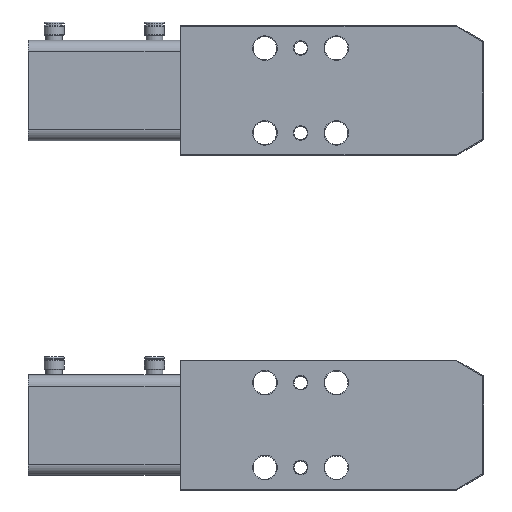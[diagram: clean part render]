
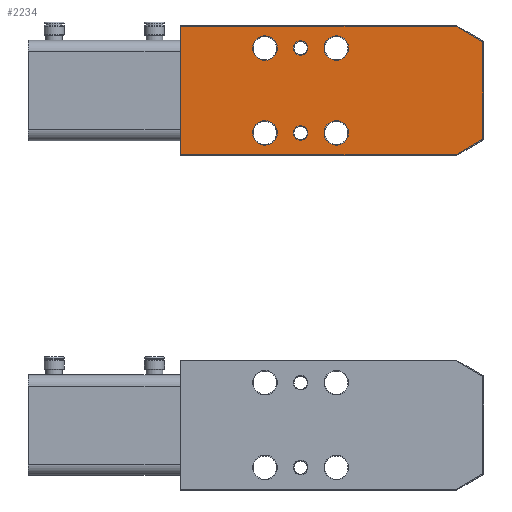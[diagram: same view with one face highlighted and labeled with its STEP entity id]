
A CAD part, top view. The second image highlights one B-rep face of the part: STEP entity #2234.
In plain terms, the highlighted planar face has unit normal (0, 0, 1).
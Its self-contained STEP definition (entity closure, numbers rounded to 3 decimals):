
#2234=ADVANCED_FACE('',(#4733,#4734,#4735,#4736,#4737,#4738,#4739),#4740,.T.);
#4733=FACE_OUTER_BOUND('',#7733,.T.);
#4734=FACE_BOUND('',#7734,.T.);
#4735=FACE_BOUND('',#7735,.T.);
#4736=FACE_BOUND('',#7736,.T.);
#4737=FACE_BOUND('',#7737,.T.);
#4738=FACE_BOUND('',#7738,.T.);
#4739=FACE_BOUND('',#7739,.T.);
#4740=PLANE('',#7740);
#7733=EDGE_LOOP('',(#14378,#14379,#14380,#14381,#14382,#14383));
#7734=EDGE_LOOP('',(#14384));
#7735=EDGE_LOOP('',(#14385));
#7736=EDGE_LOOP('',(#14386));
#7737=EDGE_LOOP('',(#14387));
#7738=EDGE_LOOP('',(#14388));
#7739=EDGE_LOOP('',(#14389));
#7740=AXIS2_PLACEMENT_3D('',#14390,#14391,#14392);
#14378=ORIENTED_EDGE('',*,*,#17893,.T.);
#14379=ORIENTED_EDGE('',*,*,#17913,.T.);
#14380=ORIENTED_EDGE('',*,*,#18425,.T.);
#14381=ORIENTED_EDGE('',*,*,#18426,.T.);
#14382=ORIENTED_EDGE('',*,*,#18427,.T.);
#14383=ORIENTED_EDGE('',*,*,#18428,.T.);
#14384=ORIENTED_EDGE('',*,*,#18423,.T.);
#14385=ORIENTED_EDGE('',*,*,#17796,.T.);
#14386=ORIENTED_EDGE('',*,*,#18429,.T.);
#14387=ORIENTED_EDGE('',*,*,#17739,.T.);
#14388=ORIENTED_EDGE('',*,*,#18412,.T.);
#14389=ORIENTED_EDGE('',*,*,#18430,.T.);
#14390=CARTESIAN_POINT('',(1522.0,139.0,61.));
#14391=DIRECTION('',(0.,0.,1.0));
#14392=DIRECTION('',(0.0,-1.0,0.));
#17739=EDGE_CURVE('',#21483,#21483,#21484,.T.);
#17796=EDGE_CURVE('',#21580,#21580,#21581,.T.);
#17893=EDGE_CURVE('',#21737,#21735,#21738,.T.);
#17913=EDGE_CURVE('',#21735,#21765,#21767,.T.);
#18412=EDGE_CURVE('',#22514,#22514,#22515,.T.);
#18423=EDGE_CURVE('',#22527,#22527,#22528,.T.);
#18425=EDGE_CURVE('',#21765,#22530,#22531,.T.);
#18426=EDGE_CURVE('',#22530,#22532,#22533,.T.);
#18427=EDGE_CURVE('',#22532,#22534,#22535,.T.);
#18428=EDGE_CURVE('',#22534,#21737,#22536,.T.);
#18429=EDGE_CURVE('',#22537,#22537,#22538,.T.);
#18430=EDGE_CURVE('',#22539,#22539,#22540,.T.);
#21483=VERTEX_POINT('',#27299);
#21484=CIRCLE('',#27300,5.5);
#21580=VERTEX_POINT('',#27462);
#21581=CIRCLE('',#27463,3.25);
#21735=VERTEX_POINT('',#27705);
#21737=VERTEX_POINT('',#27708);
#21738=LINE('',#27709,#27710);
#21765=VERTEX_POINT('',#27753);
#21767=LINE('',#27756,#27757);
#22514=VERTEX_POINT('',#29021);
#22515=CIRCLE('',#29022,5.5);
#22527=VERTEX_POINT('',#29041);
#22528=CIRCLE('',#29042,3.25);
#22530=VERTEX_POINT('',#29044);
#22531=LINE('',#29045,#29046);
#22532=VERTEX_POINT('',#29047);
#22533=LINE('',#29048,#29049);
#22534=VERTEX_POINT('',#29050);
#22535=LINE('',#29051,#29052);
#22536=LINE('',#29053,#29054);
#22537=VERTEX_POINT('',#29055);
#22538=CIRCLE('',#29056,5.5);
#22539=VERTEX_POINT('',#29057);
#22540=CIRCLE('',#29058,5.5);
#27299=CARTESIAN_POINT('',(32.5,160.0,61.));
#27300=AXIS2_PLACEMENT_3D('',#30833,#30834,#30835);
#27462=CARTESIAN_POINT('',(50.75,198.0,61.));
#27463=AXIS2_PLACEMENT_3D('',#30863,#30864,#30865);
#27705=CARTESIAN_POINT('',(123.75,150.25,61.));
#27708=CARTESIAN_POINT('',(0.25,150.25,61.));
#27709=CARTESIAN_POINT('',(118.613,150.25,61.));
#27710=VECTOR('',#30929,1.0);
#27753=CARTESIAN_POINT('',(135.75,157.178,61.));
#27756=CARTESIAN_POINT('',(1167.566,752.898,61.));
#27757=VECTOR('',#30943,1.0);
#29021=CARTESIAN_POINT('',(32.5,198.0,61.));
#29022=AXIS2_PLACEMENT_3D('',#31254,#31255,#31256);
#29041=CARTESIAN_POINT('',(50.75,160.0,61.));
#29042=AXIS2_PLACEMENT_3D('',#31260,#31261,#31262);
#29044=CARTESIAN_POINT('',(135.75,200.822,61.));
#29045=CARTESIAN_POINT('',(135.75,197.856,61.));
#29046=VECTOR('',#31263,1.0);
#29047=CARTESIAN_POINT('',(123.75,207.75,61.));
#29048=CARTESIAN_POINT('',(1202.207,-414.898,61.));
#29049=VECTOR('',#31264,1.0);
#29050=CARTESIAN_POINT('',(0.25,207.75,61.));
#29051=CARTESIAN_POINT('',(0.25,207.75,61.));
#29052=VECTOR('',#31265,1.0);
#29053=CARTESIAN_POINT('',(0.25,150.25,61.));
#29054=VECTOR('',#31266,1.0);
#29055=CARTESIAN_POINT('',(64.5,160.0,61.));
#29056=AXIS2_PLACEMENT_3D('',#31267,#31268,#31269);
#29057=CARTESIAN_POINT('',(64.5,198.0,61.));
#29058=AXIS2_PLACEMENT_3D('',#31270,#31271,#31272);
#30833=CARTESIAN_POINT('',(38.0,160.0,61.));
#30834=DIRECTION('',(0.,0.,-1.0));
#30835=DIRECTION('',(-1.0,0.,0.));
#30863=CARTESIAN_POINT('',(54.,198.0,61.));
#30864=DIRECTION('',(0.,0.,-1.0));
#30865=DIRECTION('',(-1.0,0.0,0.));
#30929=DIRECTION('',(1.0,0.0,0.));
#30943=DIRECTION('',(0.866,0.5,0.));
#31254=CARTESIAN_POINT('',(38.0,198.0,61.));
#31255=DIRECTION('',(0.,0.,-1.0));
#31256=DIRECTION('',(-1.0,0.,0.));
#31260=CARTESIAN_POINT('',(54.,160.0,61.));
#31261=DIRECTION('',(0.,0.,-1.0));
#31262=DIRECTION('',(-1.0,0.0,0.));
#31263=DIRECTION('',(0.0,1.0,0.));
#31264=DIRECTION('',(-0.866,0.5,0.));
#31265=DIRECTION('',(-1.0,0.0,0.));
#31266=DIRECTION('',(0.0,-1.0,0.));
#31267=CARTESIAN_POINT('',(70.,160.0,61.));
#31268=DIRECTION('',(0.,0.,-1.0));
#31269=DIRECTION('',(-1.0,0.0,0.));
#31270=CARTESIAN_POINT('',(70.,198.0,61.));
#31271=DIRECTION('',(0.,0.,-1.0));
#31272=DIRECTION('',(-1.0,0.0,0.));
